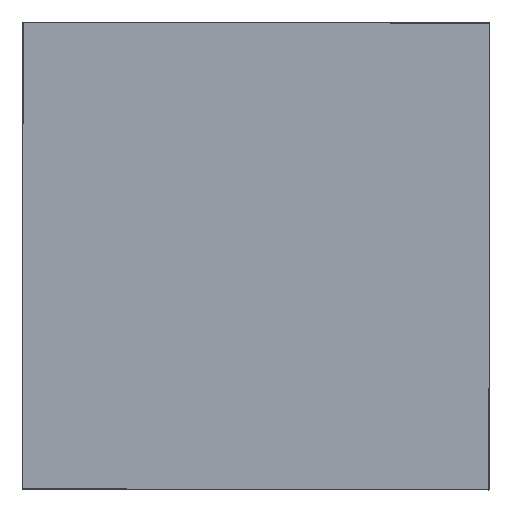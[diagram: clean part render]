
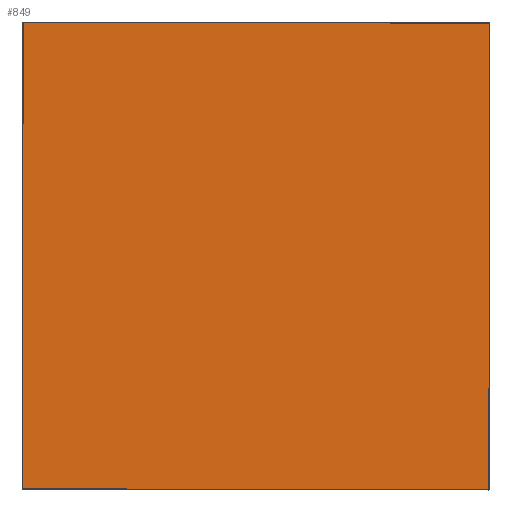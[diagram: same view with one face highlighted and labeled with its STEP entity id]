
A CAD part, top view. The second image highlights one B-rep face of the part: STEP entity #849.
In plain terms, the highlighted planar face has unit normal (0, 0, 1).
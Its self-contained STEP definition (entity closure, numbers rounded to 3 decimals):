
#394=PLANE('',#7399);
#849=ADVANCED_FACE('',(#1251),#394,.T.);
#1251=FACE_OUTER_BOUND('',#1733,.T.);
#1733=EDGE_LOOP('',(#3747,#3748,#3749,#3750));
#3747=ORIENTED_EDGE('',*,*,#4912,.F.);
#3748=ORIENTED_EDGE('',*,*,#4913,.F.);
#3749=ORIENTED_EDGE('',*,*,#4914,.F.);
#3750=ORIENTED_EDGE('',*,*,#4911,.F.);
#4911=EDGE_CURVE('',#6567,#6568,#5767,.T.);
#4912=EDGE_CURVE('',#6569,#6567,#5768,.T.);
#4913=EDGE_CURVE('',#6570,#6569,#5769,.T.);
#4914=EDGE_CURVE('',#6568,#6570,#5770,.T.);
#5767=B_SPLINE_CURVE_WITH_KNOTS('',1,(#20975,#20976),.UNSPECIFIED.,.F.,
 .F.,(2,2),(-1298.,0.),.UNSPECIFIED.);
#5768=B_SPLINE_CURVE_WITH_KNOTS('',1,(#20977,#20978),.UNSPECIFIED.,.F.,
 .F.,(2,2),(-1298.,0.),.UNSPECIFIED.);
#5769=B_SPLINE_CURVE_WITH_KNOTS('',1,(#20979,#20980),.UNSPECIFIED.,.F.,
 .F.,(2,2),(-1298.,0.),.UNSPECIFIED.);
#5770=B_SPLINE_CURVE_WITH_KNOTS('',1,(#20981,#20982),.UNSPECIFIED.,.F.,
 .F.,(2,2),(-1298.,0.),.UNSPECIFIED.);
#6567=VERTEX_POINT('',#20935);
#6568=VERTEX_POINT('',#20936);
#6569=VERTEX_POINT('',#20937);
#6570=VERTEX_POINT('',#20938);
#7399=AXIS2_PLACEMENT_3D('',#20715,#7672,$);
#7672=DIRECTION('',(0.,0.,1.));
#20715=CARTESIAN_POINT('',(-3637.519,-779.541,95.509));
#20935=CARTESIAN_POINT('',(-3507.485,-2210.307,95.223));
#20936=CARTESIAN_POINT('',(-3505.215,-912.309,95.483));
#20937=CARTESIAN_POINT('',(-2209.487,-2212.576,95.227));
#20938=CARTESIAN_POINT('',(-2207.217,-914.578,95.487));
#20975=CARTESIAN_POINT('',(-3507.485,-2210.307,95.223));
#20976=CARTESIAN_POINT('',(-3505.215,-912.309,95.483));
#20977=CARTESIAN_POINT('',(-2209.487,-2212.576,95.227));
#20978=CARTESIAN_POINT('',(-3507.485,-2210.307,95.223));
#20979=CARTESIAN_POINT('',(-2207.217,-914.578,95.487));
#20980=CARTESIAN_POINT('',(-2209.487,-2212.576,95.227));
#20981=CARTESIAN_POINT('',(-3505.215,-912.309,95.483));
#20982=CARTESIAN_POINT('',(-2207.217,-914.578,95.487));
